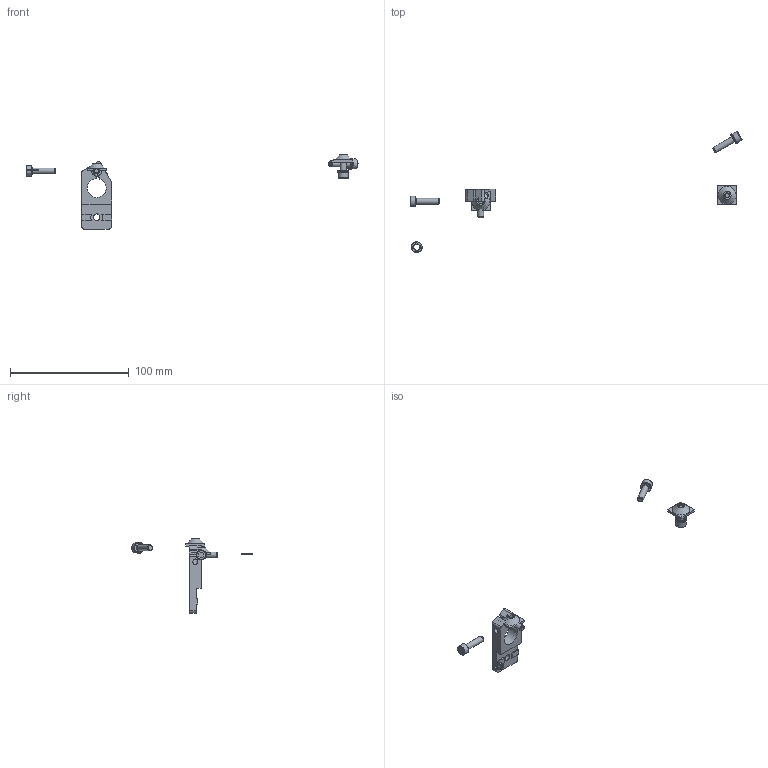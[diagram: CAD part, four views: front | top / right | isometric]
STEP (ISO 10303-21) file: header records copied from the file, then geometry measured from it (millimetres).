
FILE_DESCRIPTION( ( 'Unknown' ), '1' );
FILE_NAME( 'C:/Users/Fabrizio/Desktop/DISEGNI ACCESSORI FP SOLIDEDGE/CA.04.01.003.stp', 'Unknown', ( 'Unknown' ), ( 'Unknown' ), 'PSStep 13.0', 'Unknown', ' ' );
FILE_SCHEMA( ( 'AUTOMOTIVE_DESIGN { 1 0 10303 214 1 1 1 1 }' ) );
Length unit declared in the file: millimetre
Products named in the file (6): Assem1; V-tcei M  5 x 20; R.5.SCH; V-tcei M 5 x 14; ca.02.05.008; 04-01-003
Bounding box: 279.55 x 101.96 x 62.41 mm (x, y, z)
Volume: 19837.6 mm3; surface area: 12893.2 mm2
Topology: 8 solids, 11 shells, 716 faces, 2063 edges, 1370 vertices
Faces by surface type: plane 666, cylinder 38, cone 6, torus 6
Full cylindrical faces by diameter (mm): 4.134 x2, 4.2 x2, 5 x4, 5.3 x3, 5.5 x4, 8.5 x4, 9 x3
Entity records: 10580 total; most frequent: DIRECTION 1486, CARTESIAN_POINT 1474, ORIENTED_EDGE 1438, EDGE_CURVE 719, AXIS2_PLACEMENT_3D 499, LINE 488, VECTOR 488, VERTEX_POINT 487
